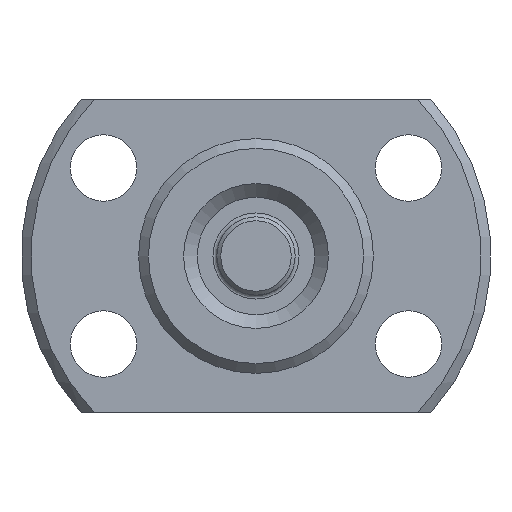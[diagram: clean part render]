
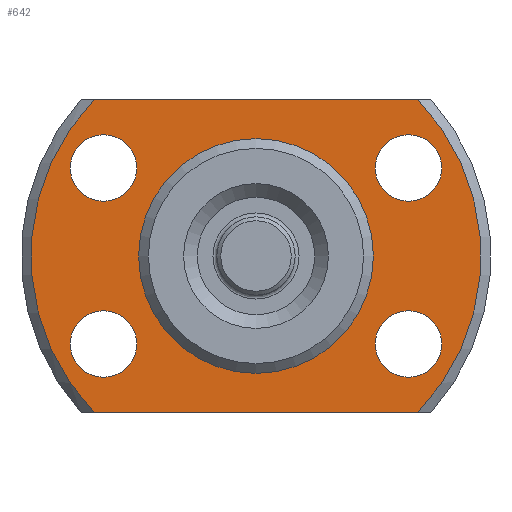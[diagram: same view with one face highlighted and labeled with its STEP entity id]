
A CAD part, left-side view. The second image highlights one B-rep face of the part: STEP entity #642.
In plain terms, the highlighted planar face has unit normal (-1, 0, 0) as drawn and (1, 0, 0) by its records, which use the part's own axes.
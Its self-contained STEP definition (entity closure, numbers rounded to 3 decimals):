
#76=LINE('',#1114,#92);
#77=LINE('',#1118,#93);
#92=VECTOR('',#923,1000.);
#93=VECTOR('',#926,1000.);
#167=ORIENTED_EDGE('',*,*,#281,.T.);
#168=ORIENTED_EDGE('',*,*,#282,.T.);
#169=ORIENTED_EDGE('',*,*,#283,.T.);
#170=ORIENTED_EDGE('',*,*,#284,.T.);
#171=ORIENTED_EDGE('',*,*,#285,.F.);
#172=ORIENTED_EDGE('',*,*,#286,.T.);
#173=ORIENTED_EDGE('',*,*,#287,.T.);
#174=ORIENTED_EDGE('',*,*,#288,.T.);
#175=ORIENTED_EDGE('',*,*,#289,.T.);
#281=EDGE_CURVE('',#349,#349,#403,.F.);
#282=EDGE_CURVE('',#350,#350,#404,.F.);
#283=EDGE_CURVE('',#351,#351,#405,.F.);
#284=EDGE_CURVE('',#352,#352,#406,.F.);
#285=EDGE_CURVE('',#353,#353,#407,.T.);
#286=EDGE_CURVE('',#354,#355,#408,.T.);
#287=EDGE_CURVE('',#355,#356,#76,.T.);
#288=EDGE_CURVE('',#356,#357,#409,.T.);
#289=EDGE_CURVE('',#357,#354,#77,.T.);
#349=VERTEX_POINT('',#1102);
#350=VERTEX_POINT('',#1104);
#351=VERTEX_POINT('',#1106);
#352=VERTEX_POINT('',#1108);
#353=VERTEX_POINT('',#1110);
#354=VERTEX_POINT('',#1112);
#355=VERTEX_POINT('',#1113);
#356=VERTEX_POINT('',#1115);
#357=VERTEX_POINT('',#1117);
#403=CIRCLE('',#746,1.7);
#404=CIRCLE('',#747,1.7);
#405=CIRCLE('',#748,1.7);
#406=CIRCLE('',#749,1.7);
#407=CIRCLE('',#750,5.85);
#408=CIRCLE('',#751,11.5);
#409=CIRCLE('',#752,11.5);
#470=EDGE_LOOP('',(#167));
#471=EDGE_LOOP('',(#168));
#472=EDGE_LOOP('',(#169));
#473=EDGE_LOOP('',(#170));
#474=EDGE_LOOP('',(#171));
#475=EDGE_LOOP('',(#172,#173,#174,#175));
#558=FACE_BOUND('',#470,.T.);
#559=FACE_BOUND('',#471,.T.);
#560=FACE_BOUND('',#472,.T.);
#561=FACE_BOUND('',#473,.T.);
#562=FACE_BOUND('',#474,.T.);
#563=FACE_BOUND('',#475,.T.);
#611=PLANE('',#745);
#642=ADVANCED_FACE('',(#558,#559,#560,#561,#562,#563),#611,.T.);
#745=AXIS2_PLACEMENT_3D('',#1100,#909,#910);
#746=AXIS2_PLACEMENT_3D('',#1101,#911,#912);
#747=AXIS2_PLACEMENT_3D('',#1103,#913,#914);
#748=AXIS2_PLACEMENT_3D('',#1105,#915,#916);
#749=AXIS2_PLACEMENT_3D('',#1107,#917,#918);
#750=AXIS2_PLACEMENT_3D('',#1109,#919,#920);
#751=AXIS2_PLACEMENT_3D('',#1111,#921,#922);
#752=AXIS2_PLACEMENT_3D('',#1116,#924,#925);
#909=DIRECTION('',(1.,0.,0.));
#910=DIRECTION('',(0.,0.,-1.));
#911=DIRECTION('',(1.,0.,0.));
#912=DIRECTION('',(0.,0.,-1.));
#913=DIRECTION('',(1.,0.,0.));
#914=DIRECTION('',(0.,0.,-1.));
#915=DIRECTION('',(1.,0.,0.));
#916=DIRECTION('',(0.,0.,-1.));
#917=DIRECTION('',(1.,0.,0.));
#918=DIRECTION('',(0.,0.,-1.));
#919=DIRECTION('',(1.,0.,0.));
#920=DIRECTION('',(0.,0.,-1.));
#921=DIRECTION('',(1.,0.,0.));
#922=DIRECTION('',(0.,0.,-1.));
#923=DIRECTION('',(0.,-1.,0.));
#924=DIRECTION('',(1.,0.,0.));
#925=DIRECTION('',(0.,0.,-1.));
#926=DIRECTION('',(0.,1.,0.));
#1100=CARTESIAN_POINT('',(6.,5.85,0.));
#1101=CARTESIAN_POINT('',(6.,7.794,4.5));
#1102=CARTESIAN_POINT('',(6.,7.794,2.8));
#1103=CARTESIAN_POINT('',(6.,-7.794,-4.5));
#1104=CARTESIAN_POINT('',(6.,-7.794,-6.2));
#1105=CARTESIAN_POINT('',(6.,-7.794,4.5));
#1106=CARTESIAN_POINT('',(6.,-7.794,2.8));
#1107=CARTESIAN_POINT('',(6.,7.794,-4.5));
#1108=CARTESIAN_POINT('',(6.,7.794,-6.2));
#1109=CARTESIAN_POINT('',(6.,0.,0.));
#1110=CARTESIAN_POINT('',(6.,0.,-5.85));
#1111=CARTESIAN_POINT('',(6.,0.,0.));
#1112=CARTESIAN_POINT('',(6.,8.261,-8.));
#1113=CARTESIAN_POINT('',(6.,8.261,8.));
#1114=CARTESIAN_POINT('',(6.,5.85,8.));
#1115=CARTESIAN_POINT('',(6.,-8.261,8.));
#1116=CARTESIAN_POINT('',(6.,0.,0.));
#1117=CARTESIAN_POINT('',(6.,-8.261,-8.));
#1118=CARTESIAN_POINT('',(6.,5.85,-8.));
